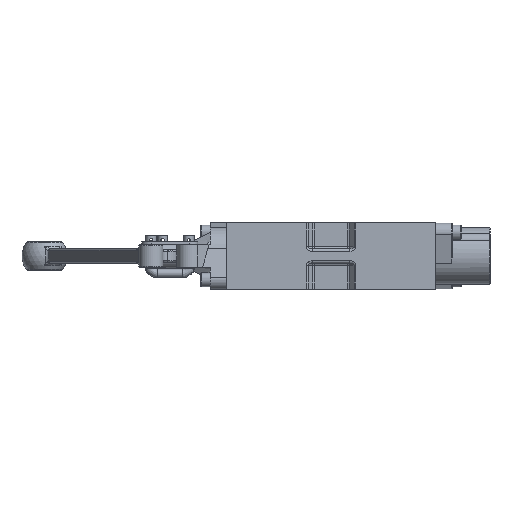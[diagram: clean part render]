
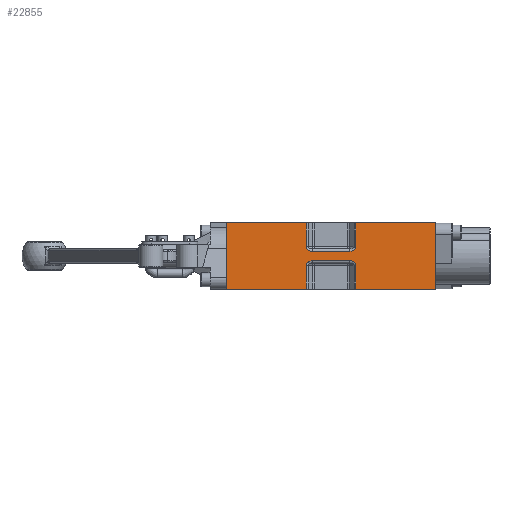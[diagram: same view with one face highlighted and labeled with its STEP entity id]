
A CAD part, front view. The second image highlights one B-rep face of the part: STEP entity #22855.
In plain terms, the highlighted planar face has unit normal (0, -1, 0).
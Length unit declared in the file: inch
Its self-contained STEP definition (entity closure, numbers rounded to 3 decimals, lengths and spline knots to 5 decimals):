
#18198=CARTESIAN_POINT('',(-0.65413,-3.375,-0.249));
#18199=VERTEX_POINT('',#18198);
#18208=CARTESIAN_POINT('',(-0.49092,-3.375,-0.124));
#18209=VERTEX_POINT('',#18208);
#18217=CARTESIAN_POINT('',(-0.49092,-3.375,-0.249));
#18218=DIRECTION('',(0.0,-1.0,0.0));
#18219=DIRECTION('',(-1.0,0.0,0.0));
#18220=AXIS2_PLACEMENT_3D('',#18217,#18218,#18219);
#18221=ELLIPSE('',#18220,0.16321,0.125);
#18222=EDGE_CURVE('',#18209,#18199,#18221,.T.);
#18234=CARTESIAN_POINT('',(0.49092,-3.375,-0.124));
#18235=VERTEX_POINT('',#18234);
#18243=CARTESIAN_POINT('',(0.49092,-3.375,-0.124));
#18244=DIRECTION('',(-1.0,0.0,0.0));
#18245=VECTOR('',#18244,0.98184);
#18246=LINE('',#18243,#18245);
#18247=EDGE_CURVE('',#18235,#18209,#18246,.T.);
#18280=CARTESIAN_POINT('',(0.65413,-3.375,-0.249));
#18281=VERTEX_POINT('',#18280);
#18289=CARTESIAN_POINT('',(0.49092,-3.375,-0.249));
#18290=DIRECTION('',(0.0,-1.0,0.0));
#18291=DIRECTION('',(1.0,0.0,0.0));
#18292=AXIS2_PLACEMENT_3D('',#18289,#18290,#18291);
#18293=ELLIPSE('',#18292,0.16321,0.125);
#18294=EDGE_CURVE('',#18281,#18235,#18293,.T.);
#18406=CARTESIAN_POINT('',(-0.65413,-3.375,0.249));
#18407=VERTEX_POINT('',#18406);
#18415=CARTESIAN_POINT('',(-0.49092,-3.375,0.124));
#18416=VERTEX_POINT('',#18415);
#18417=CARTESIAN_POINT('',(-0.49092,-3.375,0.249));
#18418=DIRECTION('',(0.0,-1.0,0.0));
#18419=DIRECTION('',(-1.0,0.0,0.0));
#18420=AXIS2_PLACEMENT_3D('',#18417,#18418,#18419);
#18421=ELLIPSE('',#18420,0.16321,0.125);
#18422=EDGE_CURVE('',#18407,#18416,#18421,.T.);
#18441=CARTESIAN_POINT('',(0.49092,-3.375,0.124));
#18442=VERTEX_POINT('',#18441);
#18443=CARTESIAN_POINT('',(-0.49092,-3.375,0.124));
#18444=DIRECTION('',(1.0,0.0,0.0));
#18445=VECTOR('',#18444,0.98184);
#18446=LINE('',#18443,#18445);
#18447=EDGE_CURVE('',#18416,#18442,#18446,.T.);
#18492=CARTESIAN_POINT('',(0.65413,-3.375,0.249));
#18493=VERTEX_POINT('',#18492);
#18494=CARTESIAN_POINT('',(0.49092,-3.375,0.249));
#18495=DIRECTION('',(0.0,-1.0,0.0));
#18496=DIRECTION('',(1.0,0.0,0.0));
#18497=AXIS2_PLACEMENT_3D('',#18494,#18495,#18496);
#18498=ELLIPSE('',#18497,0.16321,0.125);
#18499=EDGE_CURVE('',#18442,#18493,#18498,.T.);
#18525=CARTESIAN_POINT('',(-0.65413,-3.375,0.875));
#18526=VERTEX_POINT('',#18525);
#18534=CARTESIAN_POINT('',(-0.65413,-3.375,0.875));
#18535=DIRECTION('',(0.0,0.0,-1.0));
#18536=VECTOR('',#18535,0.626);
#18537=LINE('',#18534,#18536);
#18538=EDGE_CURVE('',#18526,#18407,#18537,.T.);
#18671=CARTESIAN_POINT('',(0.65413,-3.375,0.875));
#18672=VERTEX_POINT('',#18671);
#18673=CARTESIAN_POINT('',(0.65413,-3.375,0.249));
#18674=DIRECTION('',(0.0,0.0,1.0));
#18675=VECTOR('',#18674,0.626);
#18676=LINE('',#18673,#18675);
#18677=EDGE_CURVE('',#18493,#18672,#18676,.T.);
#20877=CARTESIAN_POINT('',(-2.75,-3.375,0.875));
#20878=VERTEX_POINT('',#20877);
#20887=CARTESIAN_POINT('',(-0.65413,-3.375,0.875));
#20888=DIRECTION('',(-1.0,0.0,0.0));
#20889=VECTOR('',#20888,2.09587);
#20890=LINE('',#20887,#20889);
#20891=EDGE_CURVE('',#18526,#20878,#20890,.T.);
#20900=CARTESIAN_POINT('',(2.75,-3.375,0.875));
#20901=VERTEX_POINT('',#20900);
#20902=CARTESIAN_POINT('',(2.75,-3.375,0.875));
#20903=DIRECTION('',(-1.0,0.0,0.0));
#20904=VECTOR('',#20903,2.09587);
#20905=LINE('',#20902,#20904);
#20906=EDGE_CURVE('',#20901,#18672,#20905,.T.);
#21621=CARTESIAN_POINT('',(2.75,-3.375,-0.875));
#21622=VERTEX_POINT('',#21621);
#21623=CARTESIAN_POINT('',(2.75,-3.375,-0.875));
#21624=DIRECTION('',(0.0,0.0,1.0));
#21625=VECTOR('',#21624,1.75);
#21626=LINE('',#21623,#21625);
#21627=EDGE_CURVE('',#21622,#20901,#21626,.T.);
#22254=CARTESIAN_POINT('',(-0.65413,-3.375,-0.875));
#22255=VERTEX_POINT('',#22254);
#22265=CARTESIAN_POINT('',(-2.75,-3.375,-0.875));
#22266=VERTEX_POINT('',#22265);
#22267=CARTESIAN_POINT('',(-2.75,-3.375,-0.875));
#22268=DIRECTION('',(1.0,0.0,0.0));
#22269=VECTOR('',#22268,2.09587);
#22270=LINE('',#22267,#22269);
#22271=EDGE_CURVE('',#22266,#22255,#22270,.T.);
#22309=CARTESIAN_POINT('',(0.65413,-3.375,-0.875));
#22310=VERTEX_POINT('',#22309);
#22311=CARTESIAN_POINT('',(0.65413,-3.375,-0.875));
#22312=DIRECTION('',(1.0,0.0,0.0));
#22313=VECTOR('',#22312,2.09587);
#22314=LINE('',#22311,#22313);
#22315=EDGE_CURVE('',#22310,#21622,#22314,.T.);
#22817=CARTESIAN_POINT('',(2.844,-3.375,0.0));
#22818=DIRECTION('',(0.0,-1.0,0.0));
#22819=DIRECTION('',(0.0,0.0,-1.0));
#22820=AXIS2_PLACEMENT_3D('',#22817,#22818,#22819);
#22821=PLANE('',#22820);
#22822=ORIENTED_EDGE('',*,*,#18538,.F.);
#22823=ORIENTED_EDGE('',*,*,#20891,.T.);
#22824=CARTESIAN_POINT('',(-2.75,-3.375,0.875));
#22825=DIRECTION('',(0.0,0.0,-1.0));
#22826=VECTOR('',#22825,1.75);
#22827=LINE('',#22824,#22826);
#22828=EDGE_CURVE('',#20878,#22266,#22827,.T.);
#22829=ORIENTED_EDGE('',*,*,#22828,.T.);
#22830=ORIENTED_EDGE('',*,*,#22271,.T.);
#22831=CARTESIAN_POINT('',(-0.65413,-3.375,-0.249));
#22832=DIRECTION('',(0.0,0.0,-1.0));
#22833=VECTOR('',#22832,0.626);
#22834=LINE('',#22831,#22833);
#22835=EDGE_CURVE('',#18199,#22255,#22834,.T.);
#22836=ORIENTED_EDGE('',*,*,#22835,.F.);
#22837=ORIENTED_EDGE('',*,*,#18222,.F.);
#22838=ORIENTED_EDGE('',*,*,#18247,.F.);
#22839=ORIENTED_EDGE('',*,*,#18294,.F.);
#22840=CARTESIAN_POINT('',(0.65413,-3.375,-0.875));
#22841=DIRECTION('',(0.0,0.0,1.0));
#22842=VECTOR('',#22841,0.626);
#22843=LINE('',#22840,#22842);
#22844=EDGE_CURVE('',#22310,#18281,#22843,.T.);
#22845=ORIENTED_EDGE('',*,*,#22844,.F.);
#22846=ORIENTED_EDGE('',*,*,#22315,.T.);
#22847=ORIENTED_EDGE('',*,*,#21627,.T.);
#22848=ORIENTED_EDGE('',*,*,#20906,.T.);
#22849=ORIENTED_EDGE('',*,*,#18677,.F.);
#22850=ORIENTED_EDGE('',*,*,#18499,.F.);
#22851=ORIENTED_EDGE('',*,*,#18447,.F.);
#22852=ORIENTED_EDGE('',*,*,#18422,.F.);
#22853=EDGE_LOOP('',(#22822,#22823,#22829,#22830,#22836,#22837,#22838,#22839,#22845,#22846,#22847,#22848,#22849,#22850,#22851,#22852));
#22854=FACE_OUTER_BOUND('',#22853,.T.);
#22855=ADVANCED_FACE('',(#22854),#22821,.T.);
